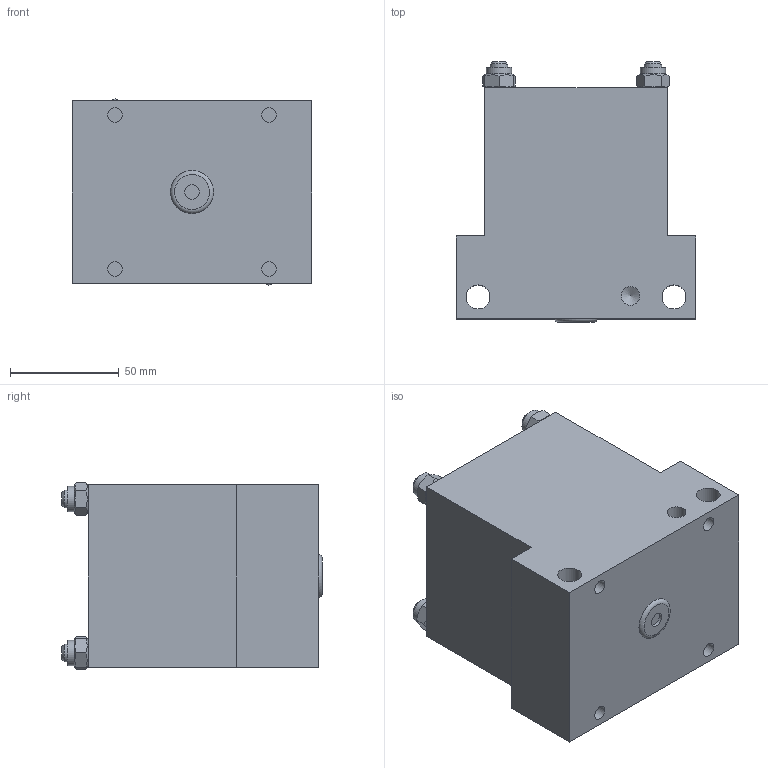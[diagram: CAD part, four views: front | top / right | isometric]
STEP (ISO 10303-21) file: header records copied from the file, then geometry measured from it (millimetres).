
FILE_DESCRIPTION((''),'2;1');
FILE_NAME('C:\VaultWork\Zeichnungen\Maßblätter\Multizylinder\M 75\M75-30\M01789-4-0 Maßblatt Multizylinder M75-3-12.stp','2013-06-17T11:24:49',('Sergeew'),(''),'Autodesk Inventor 2012','Autodesk Inventor 2012','');
FILE_SCHEMA(('AUTOMOTIVE_DESIGN { 1 0 10303 214 1 1 1 1 }'));
Length unit declared in the file: millimetre
Products named in the file (1): M01789-4-0 Maßblatt Multizylinder M75-3-12
Bounding box: 110 x 119.5 x 85.72 mm (x, y, z)
Volume: 813208.2 mm3; surface area: 68979.9 mm2
Topology: 1 solids, 5 shells, 108 faces, 235 edges, 156 vertices
Faces by surface type: plane 61, cylinder 25, cone 21, torus 1
Full cylindrical faces by diameter (mm): 6.647 x5, 8 x8, 8.566 x2, 9 x4, 11 x2, 11.6 x4
Entity records: 2577 total; most frequent: CARTESIAN_POINT 501, DIRECTION 402, ORIENTED_EDGE 328, EDGE_LOOP 178, AXIS2_PLACEMENT_3D 177, EDGE_CURVE 164, VERTEX_POINT 132, FACE_OUTER_BOUND 108
